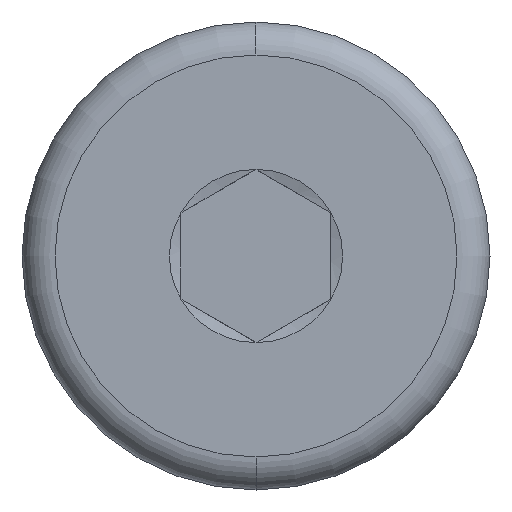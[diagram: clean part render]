
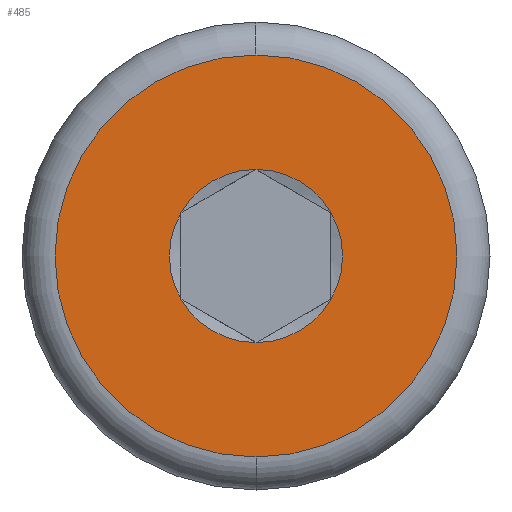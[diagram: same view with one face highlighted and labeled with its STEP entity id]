
A CAD part, left-side view. The second image highlights one B-rep face of the part: STEP entity #485.
In plain terms, the highlighted planar face has unit normal (-1, 0, 0).
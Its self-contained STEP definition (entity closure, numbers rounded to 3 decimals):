
#2 = EDGE_CURVE ( 'NONE', #425, #114, #238, .T. ) ;
#15 = CARTESIAN_POINT ( 'NONE',  ( 0., 0., 0. ) ) ;
#24 = CARTESIAN_POINT ( 'NONE',  ( 0., 0., 0. ) ) ;
#38 = DIRECTION ( 'NONE',  ( 0., 0., -1. ) ) ;
#47 = AXIS2_PLACEMENT_3D ( 'NONE', #24, #95, #38 ) ;
#56 = EDGE_CURVE ( 'NONE', #620, #488, #104, .T. ) ;
#60 = CIRCLE ( 'NONE', #199, 2.887 ) ;
#69 = EDGE_CURVE ( 'NONE', #160, #663, #115, .T. ) ;
#75 = FACE_BOUND ( 'NONE', #347, .T. ) ;
#76 = DIRECTION ( 'NONE',  ( 1., 0., 0. ) ) ;
#77 = CARTESIAN_POINT ( 'NONE',  ( 0., 0., 0. ) ) ;
#84 = AXIS2_PLACEMENT_3D ( 'NONE', #662, #623, #164 ) ;
#90 = CARTESIAN_POINT ( 'NONE',  ( 0., 0., 6.7 ) ) ;
#91 = CARTESIAN_POINT ( 'NONE',  ( 0., -2.5, 1.443 ) ) ;
#95 = DIRECTION ( 'NONE',  ( 1., 0., 0. ) ) ;
#104 = CIRCLE ( 'NONE', #458, 2.887 ) ;
#114 = VERTEX_POINT ( 'NONE', #322 ) ;
#115 = CIRCLE ( 'NONE', #288, 6.7 ) ;
#131 = DIRECTION ( 'NONE',  ( 1., 0., 0. ) ) ;
#136 = AXIS2_PLACEMENT_3D ( 'NONE', #77, #517, #421 ) ;
#160 = VERTEX_POINT ( 'NONE', #650 ) ;
#164 = DIRECTION ( 'NONE',  ( 0., 0., -1. ) ) ;
#173 = DIRECTION ( 'NONE',  ( 0., 0., -1. ) ) ;
#175 = VERTEX_POINT ( 'NONE', #91 ) ;
#178 = CARTESIAN_POINT ( 'NONE',  ( 0., 0., 0. ) ) ;
#191 = CARTESIAN_POINT ( 'NONE',  ( 0., -2.5, -1.443 ) ) ;
#199 = AXIS2_PLACEMENT_3D ( 'NONE', #527, #579, #321 ) ;
#217 = CARTESIAN_POINT ( 'NONE',  ( 0., 2.5, -1.443 ) ) ;
#221 = CARTESIAN_POINT ( 'NONE',  ( 0., 0., -2.887 ) ) ;
#238 = CIRCLE ( 'NONE', #437, 2.887 ) ;
#239 = ORIENTED_EDGE ( 'NONE', *, *, #275, .T. ) ;
#250 = DIRECTION ( 'NONE',  ( 0., 0., -1. ) ) ;
#272 = CARTESIAN_POINT ( 'NONE',  ( 0., 0., 0. ) ) ;
#275 = EDGE_CURVE ( 'NONE', #114, #624, #491, .T. ) ;
#288 = AXIS2_PLACEMENT_3D ( 'NONE', #178, #131, #627 ) ;
#301 = DIRECTION ( 'NONE',  ( 1., 0., 0. ) ) ;
#309 = DIRECTION ( 'NONE',  ( 0., 0., 1. ) ) ;
#321 = DIRECTION ( 'NONE',  ( 0., 0., -1. ) ) ;
#322 = CARTESIAN_POINT ( 'NONE',  ( 0., 2.5, 1.443 ) ) ;
#347 = EDGE_LOOP ( 'NONE', ( #239, #563, #604, #669, #532, #464 ) ) ;
#352 = CIRCLE ( 'NONE', #47, 2.887 ) ;
#368 = DIRECTION ( 'NONE',  ( 0., 0., -1. ) ) ;
#370 = DIRECTION ( 'NONE',  ( -1., 0., 0. ) ) ;
#382 = CARTESIAN_POINT ( 'NONE',  ( 0., 0., 2.887 ) ) ;
#395 = EDGE_CURVE ( 'NONE', #663, #160, #584, .T. ) ;
#408 = ORIENTED_EDGE ( 'NONE', *, *, #395, .F. ) ;
#418 = AXIS2_PLACEMENT_3D ( 'NONE', #456, #301, #250 ) ;
#421 = DIRECTION ( 'NONE',  ( 0., 0., -1. ) ) ;
#425 = VERTEX_POINT ( 'NONE', #217 ) ;
#430 = EDGE_CURVE ( 'NONE', #624, #175, #60, .T. ) ;
#435 = EDGE_LOOP ( 'NONE', ( #592, #408 ) ) ;
#437 = AXIS2_PLACEMENT_3D ( 'NONE', #15, #586, #173 ) ;
#456 = CARTESIAN_POINT ( 'NONE',  ( 0., 0., 0. ) ) ;
#458 = AXIS2_PLACEMENT_3D ( 'NONE', #272, #76, #368 ) ;
#464 = ORIENTED_EDGE ( 'NONE', *, *, #2, .T. ) ;
#468 = AXIS2_PLACEMENT_3D ( 'NONE', #529, #370, #309 ) ;
#485 = ADVANCED_FACE ( 'NONE', ( #75, #581 ), #587, .T. ) ;
#488 = VERTEX_POINT ( 'NONE', #221 ) ;
#490 = EDGE_CURVE ( 'NONE', #488, #425, #504, .T. ) ;
#491 = CIRCLE ( 'NONE', #418, 2.887 ) ;
#504 = CIRCLE ( 'NONE', #136, 2.887 ) ;
#517 = DIRECTION ( 'NONE',  ( 1., 0., 0. ) ) ;
#527 = CARTESIAN_POINT ( 'NONE',  ( 0., 0., 0. ) ) ;
#529 = CARTESIAN_POINT ( 'NONE',  ( 0., 0., 0. ) ) ;
#532 = ORIENTED_EDGE ( 'NONE', *, *, #490, .T. ) ;
#563 = ORIENTED_EDGE ( 'NONE', *, *, #430, .T. ) ;
#579 = DIRECTION ( 'NONE',  ( 1., 0., 0. ) ) ;
#581 = FACE_OUTER_BOUND ( 'NONE', #435, .T. ) ;
#584 = CIRCLE ( 'NONE', #84, 6.7 ) ;
#586 = DIRECTION ( 'NONE',  ( 1., 0., 0. ) ) ;
#587 = PLANE ( 'NONE',  #468 ) ;
#591 = EDGE_CURVE ( 'NONE', #175, #620, #352, .T. ) ;
#592 = ORIENTED_EDGE ( 'NONE', *, *, #69, .F. ) ;
#604 = ORIENTED_EDGE ( 'NONE', *, *, #591, .T. ) ;
#620 = VERTEX_POINT ( 'NONE', #191 ) ;
#623 = DIRECTION ( 'NONE',  ( 1., 0., 0. ) ) ;
#624 = VERTEX_POINT ( 'NONE', #382 ) ;
#627 = DIRECTION ( 'NONE',  ( 0., 0., -1. ) ) ;
#650 = CARTESIAN_POINT ( 'NONE',  ( 0., 0., -6.7 ) ) ;
#662 = CARTESIAN_POINT ( 'NONE',  ( 0., 0., 0. ) ) ;
#663 = VERTEX_POINT ( 'NONE', #90 ) ;
#669 = ORIENTED_EDGE ( 'NONE', *, *, #56, .T. ) ;
